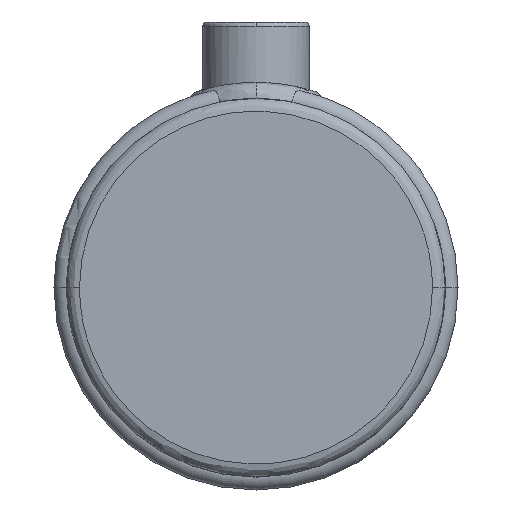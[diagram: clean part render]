
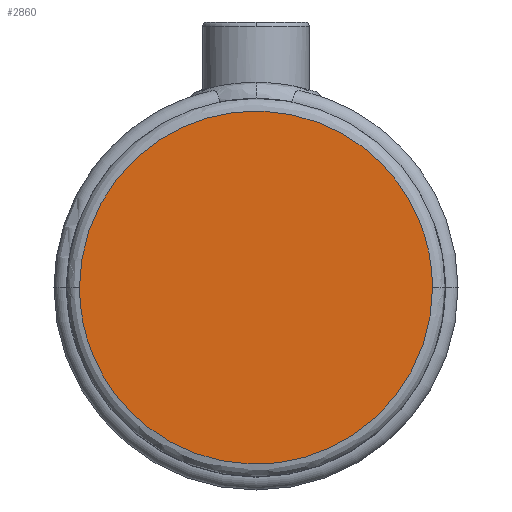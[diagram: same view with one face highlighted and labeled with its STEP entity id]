
A CAD part, top view. The second image highlights one B-rep face of the part: STEP entity #2860.
In plain terms, the highlighted planar face has unit normal (0, 0, 1).
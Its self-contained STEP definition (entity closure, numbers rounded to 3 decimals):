
#6 = CARTESIAN_POINT ( 'NONE',  ( 41.45, 0., 50. ) ) ;
#373 = CARTESIAN_POINT ( 'NONE',  ( 41.45, -82.9, 50. ) ) ;
#943 = VERTEX_POINT ( 'NONE', #4846 ) ;
#2229 = ORIENTED_EDGE ( 'NONE', *, *, #6128, .F. ) ;
#2804 = CARTESIAN_POINT ( 'NONE',  ( -41.45, -82.9, 50. ) ) ;
#2813 = VERTEX_POINT ( 'NONE', #5939 ) ;
#2860 = ADVANCED_FACE ( 'NONE', ( #5805 ), #9917, .T. ) ;
#3221 = CARTESIAN_POINT ( 'NONE',  ( -41.45, 0., 50. ) ) ;
#3600 = CARTESIAN_POINT ( 'NONE',  ( 41.45, 0., 50. ) ) ;
#4355 = CARTESIAN_POINT ( 'NONE',  ( 0., 22.225, 50. ) ) ;
#4846 = CARTESIAN_POINT ( 'NONE',  ( 41.45, 0., 50. ) ) ;
#4850 = CARTESIAN_POINT ( 'NONE',  ( 41.45, 82.9, 50. ) ) ;
#5168 = DIRECTION ( 'NONE',  ( 0., -1., 0. ) ) ;
#5186 = EDGE_CURVE ( 'NONE', #943, #2813, #5691, .T. ) ;
#5485 = AXIS2_PLACEMENT_3D ( 'NONE', #4355, #10026, #5168 ) ;
#5691 =( BOUNDED_CURVE ( )  B_SPLINE_CURVE ( 3, ( #3600, #373, #2804, #8486 ),
 .UNSPECIFIED., .F., .T. ) 
 B_SPLINE_CURVE_WITH_KNOTS ( ( 4, 4 ),
 ( 0.25, 0.75 ),
 .UNSPECIFIED. ) 
 CURVE ( )  GEOMETRIC_REPRESENTATION_ITEM ( )  RATIONAL_B_SPLINE_CURVE ( ( 1., 0.333, 0.333, 1. ) ) 
 REPRESENTATION_ITEM ( '' )  );
#5805 = FACE_OUTER_BOUND ( 'NONE', #8310, .T. ) ;
#5939 = CARTESIAN_POINT ( 'NONE',  ( -41.45, 0., 50. ) ) ;
#6128 = EDGE_CURVE ( 'NONE', #2813, #943, #9803, .T. ) ;
#6778 = ORIENTED_EDGE ( 'NONE', *, *, #5186, .F. ) ;
#8310 = EDGE_LOOP ( 'NONE', ( #6778, #2229 ) ) ;
#8486 = CARTESIAN_POINT ( 'NONE',  ( -41.45, 0., 50. ) ) ;
#9706 = CARTESIAN_POINT ( 'NONE',  ( -41.45, 82.9, 50. ) ) ;
#9803 =( BOUNDED_CURVE ( )  B_SPLINE_CURVE ( 3, ( #3221, #9706, #4850, #6 ),
 .UNSPECIFIED., .F., .T. ) 
 B_SPLINE_CURVE_WITH_KNOTS ( ( 4, 4 ),
 ( 0.75, 1.25 ),
 .UNSPECIFIED. ) 
 CURVE ( )  GEOMETRIC_REPRESENTATION_ITEM ( )  RATIONAL_B_SPLINE_CURVE ( ( 1., 0.333, 0.333, 1. ) ) 
 REPRESENTATION_ITEM ( '' )  );
#9917 = PLANE ( 'NONE',  #5485 ) ;
#10026 = DIRECTION ( 'NONE',  ( 0., 0., 1. ) ) ;
